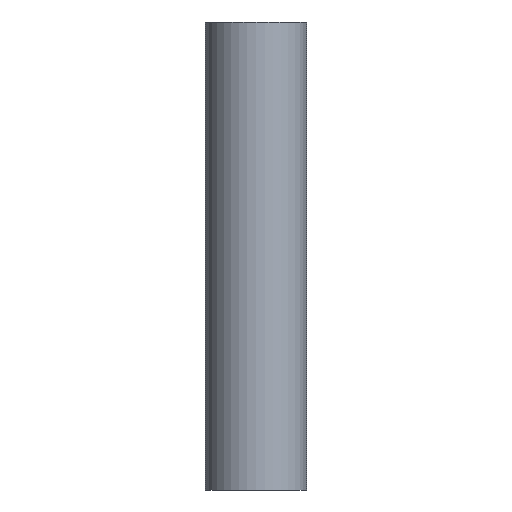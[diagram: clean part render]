
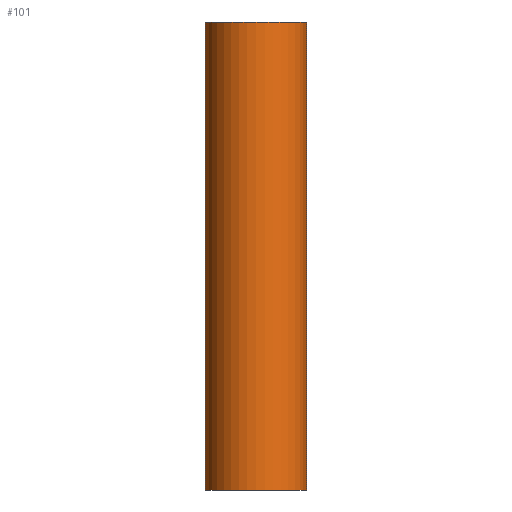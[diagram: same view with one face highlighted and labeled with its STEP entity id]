
A CAD part, front view. The second image highlights one B-rep face of the part: STEP entity #101.
In plain terms, the highlighted cylindrical face has radius 27 mm (diameter 54 mm), a partial arc.
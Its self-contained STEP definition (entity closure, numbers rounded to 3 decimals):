
#2 = CARTESIAN_POINT ( 'NONE',  ( -27., 0., 250. ) ) ;
#3 = CARTESIAN_POINT ( 'NONE',  ( -27., 0., 250. ) ) ;
#4 = DIRECTION ( 'NONE',  ( 0., 0., -1. ) ) ;
#5 = CARTESIAN_POINT ( 'NONE',  ( 27., 0., 250. ) ) ;
#6 = LINE ( 'NONE', #2, #28 ) ;
#7 = DIRECTION ( 'NONE',  ( 0., 0., -1. ) ) ;
#12 = DIRECTION ( 'NONE',  ( 0., 0., -1. ) ) ;
#22 = AXIS2_PLACEMENT_3D ( 'NONE', #411, #412, #413 ) ;
#23 = AXIS2_PLACEMENT_3D ( 'NONE', #408, #409, #410 ) ;
#25 = CIRCLE ( 'NONE', #22, 27. ) ;
#26 = CIRCLE ( 'NONE', #23, 27. ) ;
#28 = VECTOR ( 'NONE', #12, 1000. ) ;
#29 = VECTOR ( 'NONE', #4, 1000. ) ;
#31 = VECTOR ( 'NONE', #7, 1000. ) ;
#53 = CARTESIAN_POINT ( 'NONE',  ( 27., 0., 125. ) ) ;
#57 = CARTESIAN_POINT ( 'NONE',  ( -27., 0., 125. ) ) ;
#101 = ADVANCED_FACE ( 'NONE', ( #289 ), #292, .T. ) ;
#109 = EDGE_CURVE ( 'NONE', #140, #402, #147, .T. ) ;
#111 = EDGE_CURVE ( 'NONE', #127, #404, #153, .T. ) ;
#112 = EDGE_CURVE ( 'NONE', #402, #130, #152, .T. ) ;
#114 = EDGE_CURVE ( 'NONE', #404, #129, #6, .T. ) ;
#116 = EDGE_CURVE ( 'NONE', #127, #140, #26, .T. ) ;
#117 = EDGE_CURVE ( 'NONE', #129, #130, #25, .T. ) ;
#127 = VERTEX_POINT ( 'NONE', #434 ) ;
#129 = VERTEX_POINT ( 'NONE', #417 ) ;
#130 = VERTEX_POINT ( 'NONE', #436 ) ;
#140 = VERTEX_POINT ( 'NONE', #422 ) ;
#142 = CARTESIAN_POINT ( 'NONE',  ( 27., 0., 250. ) ) ;
#147 = LINE ( 'NONE', #142, #212 ) ;
#151 = DIRECTION ( 'NONE',  ( 0., 0., -1. ) ) ;
#152 = LINE ( 'NONE', #5, #31 ) ;
#153 = LINE ( 'NONE', #3, #29 ) ;
#202 = AXIS2_PLACEMENT_3D ( 'NONE', #290, #293, #294 ) ;
#212 = VECTOR ( 'NONE', #151, 1000. ) ;
#241 = EDGE_LOOP ( 'NONE', ( #326, #327, #328, #329, #249, #250 ) ) ;
#249 = ORIENTED_EDGE ( 'NONE', *, *, #117, .T. ) ;
#250 = ORIENTED_EDGE ( 'NONE', *, *, #112, .F. ) ;
#289 = FACE_OUTER_BOUND ( 'NONE', #241, .T. ) ;
#290 = CARTESIAN_POINT ( 'NONE',  ( 0., 0., 250. ) ) ;
#292 = CYLINDRICAL_SURFACE ( 'NONE', #202, 27. ) ;
#293 = DIRECTION ( 'NONE',  ( 0., 0., -1. ) ) ;
#294 = DIRECTION ( 'NONE',  ( -1., 0., 0. ) ) ;
#326 = ORIENTED_EDGE ( 'NONE', *, *, #109, .F. ) ;
#327 = ORIENTED_EDGE ( 'NONE', *, *, #116, .F. ) ;
#328 = ORIENTED_EDGE ( 'NONE', *, *, #111, .T. ) ;
#329 = ORIENTED_EDGE ( 'NONE', *, *, #114, .T. ) ;
#402 = VERTEX_POINT ( 'NONE', #53 ) ;
#404 = VERTEX_POINT ( 'NONE', #57 ) ;
#408 = CARTESIAN_POINT ( 'NONE',  ( 0., 0., 250. ) ) ;
#409 = DIRECTION ( 'NONE',  ( 0., 0., 1. ) ) ;
#410 = DIRECTION ( 'NONE',  ( 1., 0., 0. ) ) ;
#411 = CARTESIAN_POINT ( 'NONE',  ( 0., 0., 0. ) ) ;
#412 = DIRECTION ( 'NONE',  ( 0., 0., 1. ) ) ;
#413 = DIRECTION ( 'NONE',  ( 1., 0., 0. ) ) ;
#417 = CARTESIAN_POINT ( 'NONE',  ( -27., 0., 0. ) ) ;
#422 = CARTESIAN_POINT ( 'NONE',  ( 27., 0., 250. ) ) ;
#434 = CARTESIAN_POINT ( 'NONE',  ( -27., 0., 250. ) ) ;
#436 = CARTESIAN_POINT ( 'NONE',  ( 27., 0., 0. ) ) ;
